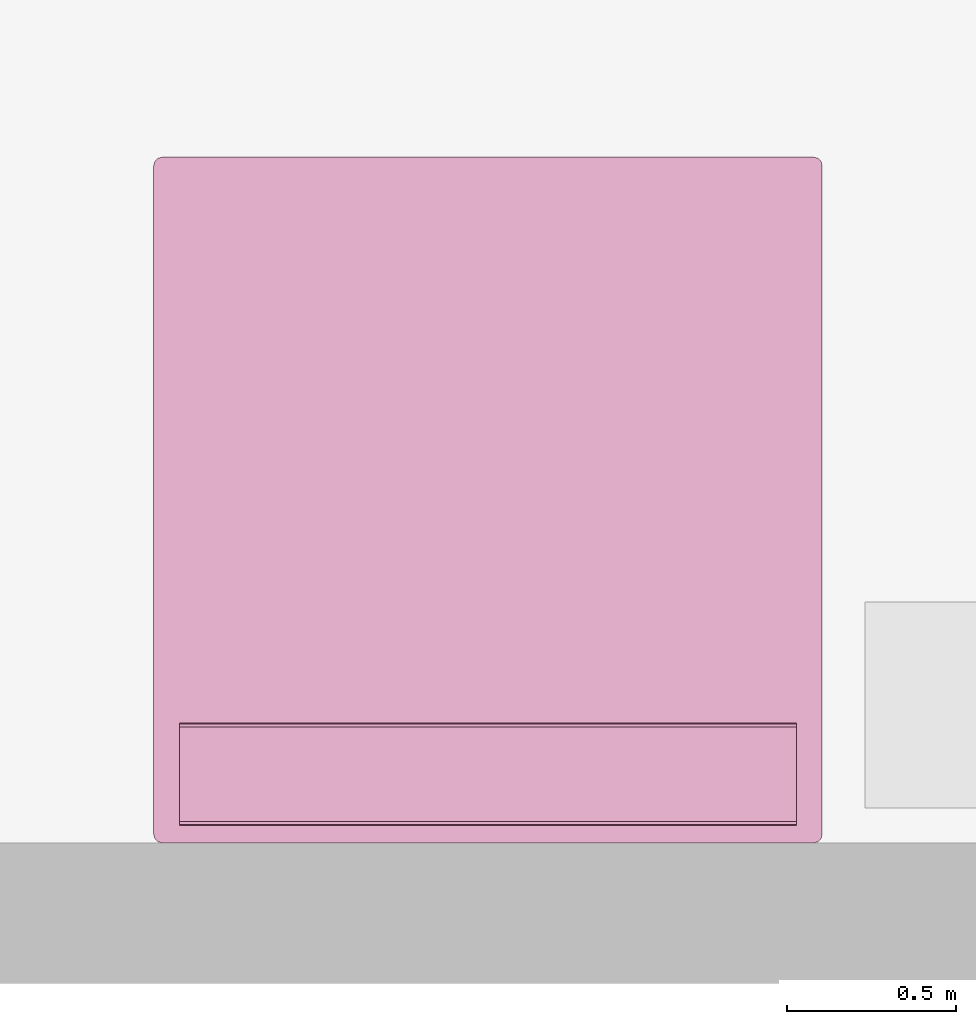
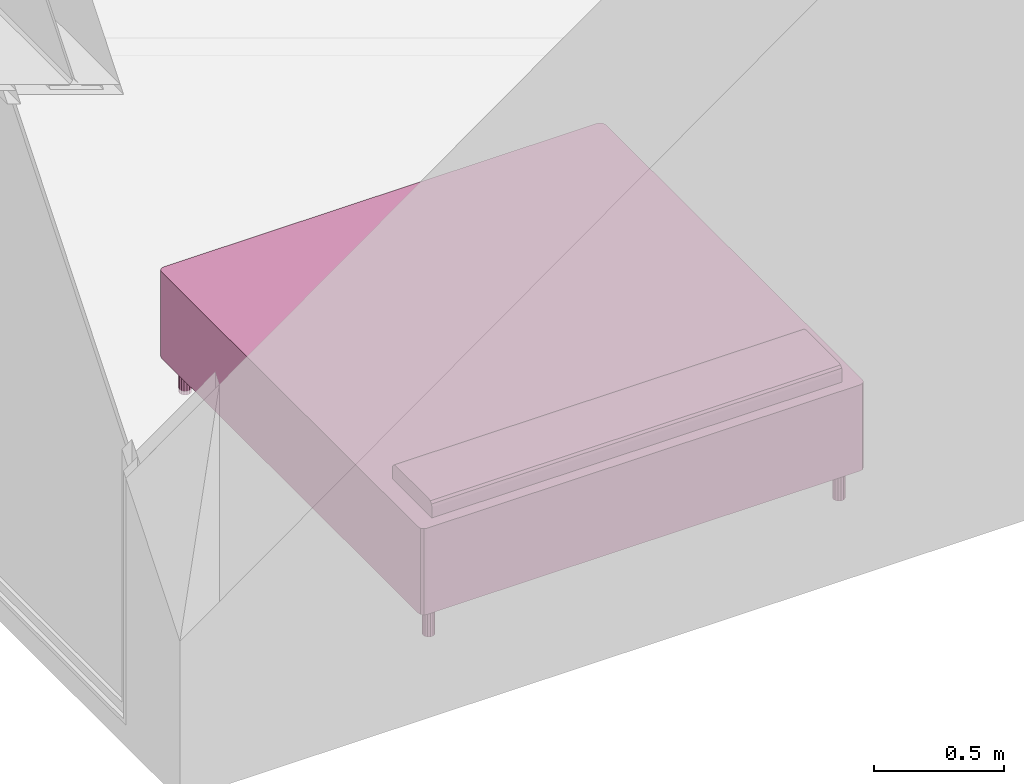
# One storey, part 8 of 16: 1 furnishing.
"""IFC4 building model written with IfcOpenShell, lengths in metres."""

import ifcopenshell
import ifcopenshell.guid

model = None  # the IFC model being written
_history = None  # IfcOwnerHistory: only IFC2X3 demands one
_inside = {}  # id of a spatial element -> (the spatial element, [elements in it])
_under = {}  # id of a project, library or spatial element -> (it, [spatial elements below it])
_declared = {}  # id of a project -> (the project, [libraries it declares])
_typed = {}  # id of a type object -> (the type object, [elements of that type])
_made_of = {}  # id of a material, layer set ... -> (it, [elements and type objects made of it])


def new_model(schema):
    """Start an empty IFC model of exactly this schema.

    Asked for "IFC4X3", IfcOpenShell would pick the latest addendum, in which some entities
    have other attributes; the version numbers below select the first issue.
    IFC2X3 requires an IfcOwnerHistory on every rooted entity: one is made here for all.
    """
    global model, _history
    if schema == "IFC4X3":
        model = ifcopenshell.file(schema_version=(4, 3, 0, 0))
    else:
        model = ifcopenshell.file(schema=schema)
    _inside.clear()
    _under.clear()
    _declared.clear()
    _typed.clear()
    _made_of.clear()
    _history = None
    if model.schema == "IFC2X3":
        org = make("IfcOrganization", Name="unknown")
        user = make(
            "IfcPersonAndOrganization",
            ThePerson=make("IfcPerson", FamilyName="unknown"),
            TheOrganization=org,
        )
        app = make(
            "IfcApplication",
            ApplicationDeveloper=org,
            Version="unknown",
            ApplicationFullName="unknown",
            ApplicationIdentifier="unknown",
        )
        _history = make(
            "IfcOwnerHistory",
            OwningUser=user,
            OwningApplication=app,
            ChangeAction="ADDED",
            CreationDate=0,
        )
    return model


def make(cls, **values):
    """One entity of the class cls with the attributes given. An attribute that is None is left unset."""
    return model.create_entity(
        cls, **{name: value for name, value in values.items() if value is not None}
    )


def entity(cls, *values):
    """Any entity or typed value of the class cls, its attributes in the order of the schema. None: left unset."""
    e = model.create_entity(cls)
    for i, value in enumerate(values):
        if value is not None:
            e[i] = value
    return e


def rooted(cls, **values):
    """An entity with a GlobalId (a new one), such as an element, a storey or a relation."""
    return make(cls, GlobalId=ifcopenshell.guid.new(), OwnerHistory=_history, **values)


def si_unit(unit_type, name, prefix=None):
    """IfcSIUnit, for example si_unit("LENGTHUNIT", "METRE", prefix="MILLI")."""
    return make("IfcSIUnit", UnitType=unit_type, Prefix=prefix, Name=name)


def converted_unit(unit_type, name, factor, base, dimensions=None, offset=None):
    """IfcConversionBasedUnit, such as the inch: factor (a typed value) times the base unit."""
    return make(
        "IfcConversionBasedUnit"
        if offset is None
        else "IfcConversionBasedUnitWithOffset",
        ConversionOffset=offset,
        Dimensions=None
        if dimensions is None
        else entity("IfcDimensionalExponents", *dimensions),
        UnitType=unit_type,
        Name=name,
        ConversionFactor=make(
            "IfcMeasureWithUnit", ValueComponent=factor, UnitComponent=base
        ),
    )


def assignment(units):
    """IfcUnitAssignment: the units of a project."""
    return None if units is None else make("IfcUnitAssignment", Units=units)


def point(xyz):
    """IfcCartesianPoint."""
    return None if xyz is None else make("IfcCartesianPoint", Coordinates=xyz)


def direction(xyz):
    """IfcDirection."""
    return None if xyz is None else make("IfcDirection", DirectionRatios=xyz)


def frame(location, z_axis=None, x_axis=None):
    """IfcAxis2Placement3D, a coordinate frame: its origin and axes. An axis left out is left unset."""
    return make(
        "IfcAxis2Placement3D",
        Location=point(location),
        Axis=direction(z_axis),
        RefDirection=direction(x_axis),
    )


def origin():
    """The frame at (0, 0, 0) with its axes left unset."""
    return frame((0.0, 0.0, 0.0))


def place(relative_to, where):
    """IfcLocalPlacement: puts the frame where relative to a parent placement (None: the world)."""
    return make(
        "IfcLocalPlacement", PlacementRelTo=relative_to, RelativePlacement=where
    )


def context(
    kind, dimensions, precision=None, world=None, true_north=None, identifier=None
):
    """IfcGeometricRepresentationContext, for example the 3D "Model" context."""
    return make(
        "IfcGeometricRepresentationContext",
        ContextIdentifier=identifier,
        ContextType=kind,
        CoordinateSpaceDimension=dimensions,
        Precision=precision,
        WorldCoordinateSystem=world,
        TrueNorth=true_north,
    )


def project(units=None, contexts=None):
    """IfcProject with its units and contexts."""
    return rooted(
        "IfcProject",
        Name="project",
        RepresentationContexts=contexts,
        UnitsInContext=assignment(units),
    )


def spatial(cls, under=None, at=None, **own):
    """A site, building, storey or space (cls), placed at a placement, below another one or the project."""
    s = rooted(cls, ObjectPlacement=at, **own)
    if under is not None:
        _under.setdefault(under.id(), (under, []))[1].append(s)
    return s


def faces_of(points, faces, orient=None, outer=None):
    """IfcFace entities. A face is a list of loops; a loop is a list of indices into points, from 0.

    orient and outer hold one flag for each loop. By default every Orientation is true, the
    first loop of a face is its IfcFaceOuterBound and the others are IfcFaceBound.
    """
    made = []
    for i, loops in enumerate(faces):
        bounds = []
        for j, loop in enumerate(loops):
            is_outer = j == 0 if outer is None else outer[i][j]
            bounds.append(
                make(
                    "IfcFaceOuterBound" if is_outer else "IfcFaceBound",
                    Bound=make("IfcPolyLoop", Polygon=[points[k] for k in loop]),
                    Orientation=True if orient is None else orient[i][j],
                )
            )
        made.append(make("IfcFace", Bounds=bounds))
    return made


def face_set(faces, orient=None, outer=None):
    """The faces of one IfcConnectedFaceSet. surface_model builds it on its shared points."""
    return ("IfcConnectedFaceSet", faces, orient, outer)


def surface_model(cls, points, shells):
    """IfcFaceBasedSurfaceModel or IfcShellBasedSurfaceModel (cls): surfaces that need not close."""
    shared = [point(p) for p in points]
    made = [make(c, CfsFaces=faces_of(shared, fs, o, b)) for c, fs, o, b in shells]
    if cls == "IfcFaceBasedSurfaceModel":
        return make(cls, FbsmFaces=made)
    return make(cls, SbsmBoundary=made)


def shape(context_of_items, identifier, shape_type, items):
    """IfcShapeRepresentation: the items that make up one representation, for example the "Body"."""
    return make(
        "IfcShapeRepresentation",
        ContextOfItems=context_of_items,
        RepresentationIdentifier=identifier,
        RepresentationType=shape_type,
        Items=items,
    )


def source(mapping_origin, context_of_items, identifier, shape_type, items):
    """IfcRepresentationMap: a shape defined once, which mapped items show again and again."""
    return make(
        "IfcRepresentationMap",
        MappingOrigin=mapping_origin,
        MappedRepresentation=shape(context_of_items, identifier, shape_type, items),
    )


def transform(
    local_origin,
    x_axis=None,
    y_axis=None,
    z_axis=None,
    scale=None,
    scale2=None,
    scale3=None,
    uniform=True,
):
    """IfcCartesianTransformationOperator3D, or its non-uniform kind. x_axis, y_axis, z_axis: its Axis1, 2, 3."""
    if uniform:
        return make(
            "IfcCartesianTransformationOperator3D",
            Axis1=direction(x_axis),
            Axis2=direction(y_axis),
            LocalOrigin=point(local_origin),
            Scale=scale,
            Axis3=direction(z_axis),
        )
    return make(
        "IfcCartesianTransformationOperator3DnonUniform",
        Axis1=direction(x_axis),
        Axis2=direction(y_axis),
        LocalOrigin=point(local_origin),
        Scale=scale,
        Axis3=direction(z_axis),
        Scale2=scale2,
        Scale3=scale3,
    )


def mapped(mapping_source, mapping_target):
    """IfcMappedItem: shows the shape of a source again, moved by a transform."""
    return make(
        "IfcMappedItem", MappingSource=mapping_source, MappingTarget=mapping_target
    )


def made_of(thing, what):
    """Note that an element or type object is made of a material, layer set ...; save() writes the relation."""
    if what is not None:
        _made_of.setdefault(what.id(), (what, []))[1].append(thing)
    return thing


def type_object(cls, material=None, **own):
    """A type object (cls), such as IfcWallType, which elements share."""
    return made_of(rooted(cls, **own), material)


def type_shapes(of_type, sources):
    """Give a type object the sources (RepresentationMaps) that its elements show as mapped items."""
    of_type.RepresentationMaps = sources


def element(
    cls,
    number,
    at=None,
    inside=None,
    cuts=None,
    type_object=None,
    material=None,
    context=None,
    identifier="Body",
    shape_type=None,
    held_by="IfcProductDefinitionShape",
    body=None,
    shapes=None,
    **own,
):
    """One element of the class cls, such as IfcWall. Its Tag is "e" and its number.

    at: its placement. inside: the storey or other place that contains it. cuts: it is an
    opening in that element (IfcRelVoidsElement). A single representation is given by context,
    identifier, shape_type and body (its items); several are given by shapes. held_by: the class
    of the entity that holds the representations. save() writes the other relations.
    """
    e = rooted(cls, Tag="e%d" % number, ObjectPlacement=at, **own)
    if body is not None:
        shapes = [shape(context, identifier, shape_type, body)]
    if shapes is not None:
        e.Representation = make(held_by, Representations=shapes)
    if inside is not None:
        _inside.setdefault(inside.id(), (inside, []))[1].append(e)
    if cuts is not None:
        rooted(
            "IfcRelVoidsElement", RelatingBuildingElement=cuts, RelatedOpeningElement=e
        )
    if type_object is not None:
        _typed.setdefault(type_object.id(), (type_object, []))[1].append(e)
    return made_of(e, material)


def aggregate(whole, parts):
    """IfcRelAggregates: a whole, such as a stair, and the parts it consists of."""
    return rooted("IfcRelAggregates", RelatingObject=whole, RelatedObjects=parts)


def save(model, path):
    """Write the relations noted so far, then the file.

    IfcRelAggregates (storeys below a building ...), IfcRelContainedInSpatialStructure (elements
    in a storey), IfcRelDefinesByType, IfcRelAssociatesMaterial and IfcRelDeclares: one each for
    every whole, place, type object, material and project.
    """
    for whole, parts in _under.values():
        aggregate(whole, parts)
    for where, things in _inside.values():
        rooted(
            "IfcRelContainedInSpatialStructure",
            RelatedElements=things,
            RelatingStructure=where,
        )
    for kind, things in _typed.values():
        rooted("IfcRelDefinesByType", RelatedObjects=things, RelatingType=kind)
    for what, things in _made_of.values():
        rooted("IfcRelAssociatesMaterial", RelatedObjects=things, RelatingMaterial=what)
    for by, libraries in _declared.values():
        rooted("IfcRelDeclares", RelatingContext=by, RelatedDefinitions=libraries)
    model.write(path)


model = new_model("IFC4")

# Units and contexts
model_context = context("Model", 3, precision=1e-09, world=origin())
plan_context = context("Plan", 3, precision=1e-09, world=origin())
ifc_project = project(units=[si_unit("LENGTHUNIT", "METRE"), si_unit("AREAUNIT", "SQUARE_METRE"), si_unit("VOLUMEUNIT", "CUBIC_METRE"), converted_unit("PLANEANGLEUNIT", "DEGREE", entity("IfcRatioMeasure", 0.01745329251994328), si_unit("PLANEANGLEUNIT", "RADIAN"), dimensions=[0, 0, 0, 0, 0, 0, 0]), si_unit("TIMEUNIT", "SECOND")], contexts=[model_context, plan_context])

# Site, building, storey, space
site_placement = place(None, origin())
site = spatial("IfcSite", under=ifc_project, at=site_placement, Name="Default", CompositionType="ELEMENT")
building_placement = place(site_placement, origin())
building = spatial("IfcBuilding", under=site, at=building_placement, CompositionType="ELEMENT")
storey_placement = place(building_placement, frame((0.0, 0.0, 3.100000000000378)))
storey = spatial("IfcBuildingStorey", under=building, at=storey_placement, Name="Level 2", CompositionType="ELEMENT", Elevation=3.100000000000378)
space_placement = place(storey_placement, origin())
space = spatial("IfcSpace", under=storey, at=space_placement, Name="B202", CompositionType="ELEMENT", PredefinedType="SPACE")

# Furnishing
furniture_type = type_object("IfcFurnitureType", Name="1981 x 2032mm - King", AssemblyPlace="NOTDEFINED")
shared_shape = source(origin(), model_context, "Body", "SurfaceModel", [
    surface_model("IfcFaceBasedSurfaceModel", [(0.001595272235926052, 0.02699527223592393, 0.3556), (0.001595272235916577, 2.008195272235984, 0.3556), (0.004998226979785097, 2.020895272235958, 0.3556), (0.01429527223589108, 2.030192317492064, 0.3556), (0.02699527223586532, 2.033595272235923, 0.3556), (1.957195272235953, 2.033595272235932, 0.3556), (1.969895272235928, 2.030192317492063, 0.3556), (1.979192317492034, 2.020895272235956, 0.3556), (1.982595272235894, 2.008195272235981, 0.3556), (1.982595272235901, 0.02699527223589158, 0.3556), (1.979192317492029, 0.01429527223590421, 0.3556), (1.969895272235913, 0.004998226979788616, 0.3556), (1.957195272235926, 0.001595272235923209, 0.3556), (0.02699527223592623, 0.00159527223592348, 0.3556), (0.01429527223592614, 0.004998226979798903, 0.3556), (0.00499822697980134, 0.01429527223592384, 0.3556), (0.001595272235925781, 0.02699527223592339, 0.1524), (0.001595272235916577, 2.008195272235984, 0.1524), (0.004998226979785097, 2.020895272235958, 0.1524), (0.01429527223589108, 2.030192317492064, 0.1524), (0.02699527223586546, 2.033595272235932, 0.1524), (1.957195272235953, 2.033595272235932, 0.1524), (1.969895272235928, 2.030192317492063, 0.1524), (1.979192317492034, 2.020895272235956, 0.1524), (1.982595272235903, 2.008195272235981, 0.1524), (1.982595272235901, 0.02699527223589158, 0.1524), (1.979192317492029, 0.01429527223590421, 0.1524), (1.969895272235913, 0.004998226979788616, 0.1524), (1.957195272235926, 0.001595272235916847, 0.1524), (0.02699527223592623, 0.00159527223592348, 0.1524), (0.01429527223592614, 0.004998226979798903, 0.1524), (0.00499822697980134, 0.01429527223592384, 0.1524), (0.003559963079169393, 0.01966291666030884, 0.1524000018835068), (0.003296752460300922, 0.02064526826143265, 0.3555999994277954), (0.009646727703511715, 0.009646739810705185, 0.3555999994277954), (0.009646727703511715, 0.009646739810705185, 0.1524000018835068), (0.02064525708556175, 0.003296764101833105, 0.1524000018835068), (0.01966290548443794, 0.003559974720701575, 0.3555999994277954), (1.964527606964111, 0.003559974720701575, 0.1524000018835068), (1.963545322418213, 0.003296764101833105, 0.3555999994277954), (1.974543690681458, 0.009646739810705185, 0.3555999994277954), (1.974543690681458, 0.009646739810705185, 0.1524000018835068), (1.980893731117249, 0.02064526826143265, 0.1524000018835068), (1.98063051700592, 0.01966291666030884, 0.3555999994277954), (1.980893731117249, 2.014545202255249, 0.3555999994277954), (1.980893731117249, 2.014545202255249, 0.1524000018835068), (1.974543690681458, 2.025543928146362, 0.3555999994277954), (1.974543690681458, 2.025543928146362, 0.1524000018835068), (1.963545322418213, 2.031893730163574, 0.1524000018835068), (1.964527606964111, 2.031630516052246, 0.3555999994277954), (0.01966290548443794, 2.031630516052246, 0.1524000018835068), (0.02064525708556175, 2.031893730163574, 0.3555999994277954), (0.009646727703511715, 2.025543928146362, 0.3555999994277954), (0.009646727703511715, 2.025543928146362, 0.1524000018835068), (0.003296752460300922, 2.014545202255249, 0.1524000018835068), (0.003559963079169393, 2.015527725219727, 0.3555999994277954), (0.07779527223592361, 1.677995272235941, 0.5588000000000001), (0.07779527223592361, 1.677995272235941, 0.6096), (0.07779527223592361, 1.681398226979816, 0.6223), (0.07779527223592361, 1.690695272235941, 0.6315970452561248), (0.07779527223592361, 1.703395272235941, 0.6349999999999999), (0.07779527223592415, 1.957395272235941, 0.6349999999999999), (0.07779527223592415, 1.970095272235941, 0.6315970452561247), (0.07779527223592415, 1.979392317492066, 0.6222999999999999), (0.07779527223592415, 1.982795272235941, 0.6095999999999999), (0.07779527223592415, 1.982795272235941, 0.5588000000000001), (1.906395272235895, 1.677995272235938, 0.5588000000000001), (1.906395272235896, 1.982795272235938, 0.5588000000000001), (1.906395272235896, 1.982795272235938, 0.6095999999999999), (1.906395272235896, 1.979392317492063, 0.6222999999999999), (1.906395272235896, 1.970095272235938, 0.6315970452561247), (1.906395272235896, 1.957395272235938, 0.6349999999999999), (1.906395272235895, 1.703395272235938, 0.6349999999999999), (1.906395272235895, 1.690695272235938, 0.6315970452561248), (1.906395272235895, 1.681398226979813, 0.6223), (1.906395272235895, 1.677995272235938, 0.6096), (0.07779525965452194, 1.679741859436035, 0.6161183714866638), (1.906395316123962, 1.679696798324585, 0.6159499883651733), (0.07779525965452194, 1.686046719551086, 0.6269484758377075), (1.906395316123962, 1.686046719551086, 0.6269484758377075), (1.906395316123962, 1.69704532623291, 0.6332985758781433), (0.07779525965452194, 1.696876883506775, 0.6332534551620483), (1.906395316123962, 1.963913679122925, 0.6332534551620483), (0.07779525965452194, 1.96374523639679, 0.6332985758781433), (0.07779525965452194, 1.974743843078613, 0.6269484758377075), (1.906395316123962, 1.974743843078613, 0.6269484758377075), (1.906395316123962, 1.981093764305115, 0.6159499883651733), (0.07779525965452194, 1.981048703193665, 0.6161183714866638), (0.1031952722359, 1.957395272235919, 0.1524), (0.1006798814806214, 1.946374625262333, 0.1524), (0.09363191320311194, 1.937536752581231, 0.1524), (0.08344730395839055, 1.932632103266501, 0.1524), (0.07214324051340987, 1.932632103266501, 0.1524), (0.06195863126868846, 1.937536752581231, 0.1524), (0.05491066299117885, 1.946374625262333, 0.1524), (0.05239527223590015, 1.957395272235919, 0.1524), (0.05491066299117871, 1.968415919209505, 0.1524), (0.06195863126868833, 1.977253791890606, 0.1524), (0.07214324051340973, 1.982158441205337, 0.1524), (0.08344730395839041, 1.982158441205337, 0.1524), (0.0936319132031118, 1.977253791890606, 0.1524), (0.1006798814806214, 1.968415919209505, 0.1524), (1.931795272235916, 1.957395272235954, 0.1524), (1.929279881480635, 1.946374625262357, 0.1524), (1.922231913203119, 1.937536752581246, 0.1524), (1.912047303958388, 1.932632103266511, 0.1524), (1.900743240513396, 1.932632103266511, 0.1524), (1.890558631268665, 1.937536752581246, 0.1524), (1.883510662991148, 1.946374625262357, 0.1524), (1.880995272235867, 1.957395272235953, 0.1524), (1.883510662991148, 1.96841591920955, 0.1524), (1.890558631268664, 1.97725379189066, 0.1524), (1.900743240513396, 1.982158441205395, 0.1524), (1.912047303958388, 1.982158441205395, 0.1524), (1.922231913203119, 1.97725379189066, 0.1524), (1.929279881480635, 1.96841591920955, 0.1524), (1.931795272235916, 0.0777952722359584, 0.1524), (1.929279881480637, 0.06677462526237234, 0.1524), (1.922231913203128, 0.0579367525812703, 0.1524), (1.912047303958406, 0.05303210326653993, 0.1524), (1.900743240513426, 0.05303210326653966, 0.1524), (1.890558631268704, 0.0579367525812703, 0.1524), (1.883510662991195, 0.06677462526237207, 0.1524), (1.880995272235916, 0.07779527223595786, 0.1524), (1.883510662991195, 0.08881591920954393, 0.1524), (1.890558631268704, 0.09765379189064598, 0.1524), (1.900743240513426, 0.1025584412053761, 0.1524), (1.912047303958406, 0.1025584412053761, 0.1524), (1.922231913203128, 0.09765379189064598, 0.1524), (1.929279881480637, 0.08881591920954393, 0.1524), (0.1031952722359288, 0.0777952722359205, 0.1524), (0.10067988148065, 0.06677462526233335, 0.1524), (0.09363191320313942, 0.05793675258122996, 0.1524), (0.08344730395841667, 0.05303210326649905, 0.1524), (0.07214324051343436, 0.05303210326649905, 0.1524), (0.06195863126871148, 0.05793675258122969, 0.1524), (0.05491066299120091, 0.06677462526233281, 0.1524), (0.05239527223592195, 0.0777952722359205, 0.1524), (0.05491066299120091, 0.08881591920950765, 0.1524), (0.06195863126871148, 0.09765379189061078, 0.1524), (0.07214324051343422, 0.102558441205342, 0.1524), (0.08344730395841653, 0.102558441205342, 0.1524), (0.09363191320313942, 0.09765379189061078, 0.1524), (0.1006798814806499, 0.08881591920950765, 0.1524), (0.1031952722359, 1.957395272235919, 0.0), (0.1006798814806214, 1.946374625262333, 0.0), (0.09363191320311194, 1.937536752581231, 0.0), (0.08344730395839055, 1.932632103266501, 0.0), (0.07214324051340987, 1.932632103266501, 0.0), (0.06195863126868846, 1.937536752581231, 0.0), (0.05491066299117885, 1.946374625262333, 0.0), (0.05239527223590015, 1.957395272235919, 0.0), (0.05491066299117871, 1.968415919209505, 0.0), (0.06195863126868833, 1.977253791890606, 0.0), (0.07214324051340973, 1.982158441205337, 0.0), (0.08344730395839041, 1.982158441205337, 0.0), (0.0936319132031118, 1.977253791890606, 0.0), (0.1006798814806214, 1.968415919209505, 0.0), (1.931795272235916, 1.957395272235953, 0.0), (1.929279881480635, 1.946374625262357, 0.0), (1.922231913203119, 1.937536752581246, 0.0), (1.912047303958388, 1.932632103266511, 0.0), (1.900743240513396, 1.932632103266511, 0.0), (1.890558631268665, 1.937536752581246, 0.0), (1.883510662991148, 1.946374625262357, 0.0), (1.880995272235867, 1.957395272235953, 0.0), (1.883510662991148, 1.96841591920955, 0.0), (1.890558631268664, 1.97725379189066, 0.0), (1.900743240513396, 1.982158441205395, 0.0), (1.912047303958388, 1.982158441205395, 0.0), (1.922231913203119, 1.97725379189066, 0.0), (1.929279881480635, 1.96841591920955, 0.0), (1.931795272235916, 0.07779527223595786, 0.0), (1.929279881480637, 0.06677462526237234, 0.0), (1.922231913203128, 0.0579367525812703, 0.0), (1.912047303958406, 0.05303210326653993, 0.0), (1.900743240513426, 0.05303210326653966, 0.0), (1.890558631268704, 0.0579367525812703, 0.0), (1.883510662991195, 0.06677462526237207, 0.0), (1.880995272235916, 0.07779527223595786, 0.0), (1.883510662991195, 0.08881591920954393, 0.0), (1.890558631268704, 0.09765379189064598, 0.0), (1.900743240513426, 0.1025584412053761, 0.0), (1.912047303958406, 0.1025584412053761, 0.0), (1.922231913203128, 0.09765379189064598, 0.0), (1.929279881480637, 0.08881591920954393, 0.0), (0.1031952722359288, 0.07779527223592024, 0.0), (0.10067988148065, 0.06677462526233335, 0.0), (0.09363191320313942, 0.05793675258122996, 0.0), (0.08344730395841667, 0.05303210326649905, 0.0), (0.07214324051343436, 0.05303210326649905, 0.0), (0.06195863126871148, 0.05793675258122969, 0.0), (0.05491066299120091, 0.06677462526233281, 0.0), (0.05239527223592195, 0.0777952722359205, 0.0), (0.05491066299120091, 0.08881591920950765, 0.0), (0.06195863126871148, 0.09765379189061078, 0.0), (0.07214324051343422, 0.102558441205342, 0.0), (0.08344730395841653, 0.102558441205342, 0.0), (0.09363191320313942, 0.09765379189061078, 0.0), (0.1006798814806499, 0.08881591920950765, 0.0), (0.05365297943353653, 1.951884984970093, 0.1524000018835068), (0.05843466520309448, 1.94195568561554, 0.0), (0.05843466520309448, 1.94195568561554, 0.1524000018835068), (0.1020657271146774, 1.952446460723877, 0.1524000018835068), (0.1019376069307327, 1.951884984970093, 0.0), (0.06705092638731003, 1.935084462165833, 0.0), (0.06705092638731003, 1.935084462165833, 0.1524000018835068), (0.05352479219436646, 1.952446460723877, 0.0), (0.07779525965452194, 1.932632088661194, 0.1524000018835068), (0.07779525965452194, 1.932632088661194, 0.0), (0.08853958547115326, 1.935084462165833, 0.0), (0.08853958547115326, 1.935084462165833, 0.1524000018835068), (0.09715592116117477, 1.94195568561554, 0.0), (0.09715592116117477, 1.94195568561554, 0.1524000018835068), (0.1020657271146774, 1.962344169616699, 0.0), (0.1019376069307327, 1.962905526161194, 0.1524000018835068), (0.09715592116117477, 1.972834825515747, 0.0), (0.09715592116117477, 1.972834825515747, 0.1524000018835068), (0.08853958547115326, 1.979706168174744, 0.1524000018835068), (0.08853958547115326, 1.979706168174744, 0.0), (0.07779525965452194, 1.982158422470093, 0.1524000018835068), (0.07779525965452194, 1.982158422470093, 0.0), (0.06705092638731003, 1.979706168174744, 0.1524000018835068), (0.06705092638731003, 1.979706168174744, 0.0), (0.05352479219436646, 1.962344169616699, 0.1524000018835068), (0.05843466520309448, 1.972834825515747, 0.1524000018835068), (0.05843466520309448, 1.972834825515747, 0.0), (0.05365297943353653, 1.962905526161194, 0.0), (1.882253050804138, 1.951884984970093, 0.1524000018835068), (1.88703465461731, 1.94195568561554, 0.1524000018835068), (1.88703465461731, 1.94195568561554, 0.0), (1.930537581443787, 1.951884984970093, 0.0), (1.930665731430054, 1.952446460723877, 0.1524000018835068), (1.895650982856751, 1.935084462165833, 0.0), (1.895650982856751, 1.935084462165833, 0.1524000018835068), (1.882124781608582, 1.952446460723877, 0.0), (1.906395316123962, 1.932632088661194, 0.1524000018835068), (1.906395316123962, 1.932632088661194, 0.0), (1.917139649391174, 1.935084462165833, 0.0), (1.917139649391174, 1.935084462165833, 0.1524000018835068), (1.925755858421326, 1.94195568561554, 0.0), (1.925755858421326, 1.94195568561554, 0.1524000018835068), (1.930665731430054, 1.962344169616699, 0.0), (1.930537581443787, 1.962905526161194, 0.1524000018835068), (1.925755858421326, 1.972834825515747, 0.1524000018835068), (1.925755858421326, 1.972834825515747, 0.0), (1.917139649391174, 1.979706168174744, 0.1524000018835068), (1.917139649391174, 1.979706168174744, 0.0), (1.906395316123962, 1.982158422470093, 0.1524000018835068), (1.906395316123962, 1.982158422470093, 0.0), (1.895650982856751, 1.979706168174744, 0.1524000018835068), (1.895650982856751, 1.979706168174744, 0.0), (1.882124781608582, 1.962344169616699, 0.1524000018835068), (1.88703465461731, 1.972834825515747, 0.0), (1.88703465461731, 1.972834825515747, 0.1524000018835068), (1.882253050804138, 1.962905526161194, 0.0), (1.882253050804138, 0.07228492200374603, 0.1524000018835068), (1.88703465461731, 0.0623556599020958, 0.0), (1.88703465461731, 0.0623556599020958, 0.1524000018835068), (1.930537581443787, 0.07228492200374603, 0.0), (1.930665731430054, 0.0728464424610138, 0.1524000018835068), (1.895650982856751, 0.05548442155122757, 0.1524000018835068), (1.895650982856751, 0.05548442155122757, 0.0), (1.882124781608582, 0.0728464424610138, 0.0), (1.906395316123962, 0.05303210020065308, 0.0), (1.906395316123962, 0.05303210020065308, 0.1524000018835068), (1.917139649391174, 0.05548442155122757, 0.1524000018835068), (1.917139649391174, 0.05548442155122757, 0.0), (1.925755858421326, 0.0623556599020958, 0.0), (1.925755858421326, 0.0623556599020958, 0.1524000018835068), (1.930665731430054, 0.08274409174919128, 0.0), (1.930537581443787, 0.08330561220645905, 0.1524000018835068), (1.925755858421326, 0.09323488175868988, 0.1524000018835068), (1.925755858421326, 0.09323488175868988, 0.0), (1.917139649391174, 0.1001061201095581, 0.0), (1.917139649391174, 0.1001061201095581, 0.1524000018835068), (1.906395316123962, 0.1025584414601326, 0.0), (1.906395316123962, 0.1025584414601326, 0.1524000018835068), (1.895650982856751, 0.1001061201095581, 0.0), (1.895650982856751, 0.1001061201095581, 0.1524000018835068), (1.882124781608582, 0.08274409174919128, 0.1524000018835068), (1.88703465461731, 0.09323488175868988, 0.0), (1.88703465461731, 0.09323488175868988, 0.1524000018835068), (1.882253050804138, 0.08330561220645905, 0.0), (0.05365297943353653, 0.07228492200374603, 0.1524000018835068), (0.05843466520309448, 0.0623556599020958, 0.1524000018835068), (0.05843466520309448, 0.0623556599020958, 0.0), (0.1020657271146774, 0.0728464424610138, 0.1524000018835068), (0.1019376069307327, 0.07228492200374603, 0.0), (0.06705092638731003, 0.05548442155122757, 0.1524000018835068), (0.06705092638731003, 0.05548442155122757, 0.0), (0.05352479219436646, 0.0728464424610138, 0.0), (0.07779525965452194, 0.05303210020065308, 0.0), (0.07779525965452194, 0.05303210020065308, 0.1524000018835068), (0.08853958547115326, 0.05548442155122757, 0.1524000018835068), (0.08853958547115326, 0.05548442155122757, 0.0), (0.09715592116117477, 0.0623556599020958, 0.1524000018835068), (0.09715592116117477, 0.0623556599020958, 0.0), (0.1020657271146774, 0.08274409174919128, 0.0), (0.1019376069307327, 0.08330561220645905, 0.1524000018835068), (0.09715592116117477, 0.09323488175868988, 0.0), (0.09715592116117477, 0.09323488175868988, 0.1524000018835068), (0.08853958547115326, 0.1001061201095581, 0.0), (0.08853958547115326, 0.1001061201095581, 0.1524000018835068), (0.07779525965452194, 0.1025584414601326, 0.0), (0.07779525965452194, 0.1025584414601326, 0.1524000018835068), (0.06705092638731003, 0.1001061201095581, 0.0), (0.06705092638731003, 0.1001061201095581, 0.1524000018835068), (0.05352479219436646, 0.08274409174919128, 0.1524000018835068), (0.05843466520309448, 0.09323488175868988, 0.1524000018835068), (0.05843466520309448, 0.09323488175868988, 0.0), (0.05365297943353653, 0.08330561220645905, 0.0), (0.02699527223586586, 2.033595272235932, 0.5588000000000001), (1.957195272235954, 2.033595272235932, 0.5588000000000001), (1.969895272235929, 2.030192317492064, 0.5588000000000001), (1.979192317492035, 2.020895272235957, 0.5588000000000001), (1.982595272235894, 2.008195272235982, 0.5588000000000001), (1.982595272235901, 0.02699527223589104, 0.5588000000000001), (1.979192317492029, 0.0142952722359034, 0.5588000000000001), (1.969895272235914, 0.004998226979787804, 0.5588000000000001), (1.957195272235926, 0.001595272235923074, 0.5588000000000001), (0.02699527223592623, 0.001595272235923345, 0.5588000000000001), (0.01429527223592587, 0.004998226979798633, 0.5588000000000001), (0.004998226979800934, 0.01429527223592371, 0.5588000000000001), (0.00159527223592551, 0.0269952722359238, 0.5588000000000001), (0.001595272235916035, 2.008195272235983, 0.5588000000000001), (0.004998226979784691, 2.020895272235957, 0.5588000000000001), (0.01429527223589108, 2.030192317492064, 0.5588000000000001), (0.02699527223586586, 2.033595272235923, 0.3556), (1.957195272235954, 2.033595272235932, 0.3556), (1.969895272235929, 2.030192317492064, 0.3556), (1.979192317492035, 2.020895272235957, 0.3556), (1.982595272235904, 2.008195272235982, 0.3556), (1.982595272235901, 0.02699527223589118, 0.3556), (1.979192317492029, 0.0142952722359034, 0.3556), (1.969895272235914, 0.004998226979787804, 0.3556), (1.957195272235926, 0.001595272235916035, 0.3556), (0.02699527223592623, 0.001595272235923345, 0.3556), (0.01429527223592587, 0.004998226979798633, 0.3556), (0.004998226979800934, 0.01429527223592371, 0.3556), (0.001595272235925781, 0.02699527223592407, 0.3556), (0.001595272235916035, 2.008195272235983, 0.3556), (0.004998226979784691, 2.020895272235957, 0.3556), (0.01429527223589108, 2.030192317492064, 0.3556), (0.01966290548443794, 2.031630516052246, 0.3555999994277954), (0.02064525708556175, 2.031893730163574, 0.5588000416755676), (0.009646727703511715, 2.025543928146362, 0.5588000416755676), (0.009646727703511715, 2.025543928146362, 0.3555999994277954), (0.003296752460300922, 2.014545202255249, 0.3555999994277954), (0.003559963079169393, 2.015527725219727, 0.5588000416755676), (0.003559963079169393, 0.01966291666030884, 0.3555999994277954), (0.003296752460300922, 0.02064526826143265, 0.5588000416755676), (0.009646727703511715, 0.009646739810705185, 0.5588000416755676), (0.009646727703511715, 0.009646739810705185, 0.3555999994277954), (0.02064525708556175, 0.003296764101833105, 0.3555999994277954), (0.01966290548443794, 0.003559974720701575, 0.5588000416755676), (1.964527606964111, 0.003559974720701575, 0.3555999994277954), (1.963545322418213, 0.003296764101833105, 0.5588000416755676), (1.974543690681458, 0.009646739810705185, 0.5588000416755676), (1.974543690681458, 0.009646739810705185, 0.3555999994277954), (1.980893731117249, 0.02064526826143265, 0.3555999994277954), (1.98063051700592, 0.01966291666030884, 0.5588000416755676), (1.98063051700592, 2.015527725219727, 0.3555999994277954), (1.980893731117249, 2.014545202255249, 0.5588000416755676), (1.974543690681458, 2.025543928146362, 0.5588000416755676), (1.974543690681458, 2.025543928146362, 0.3555999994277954), (1.963545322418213, 2.031893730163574, 0.3555999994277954), (1.964527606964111, 2.031630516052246, 0.5588000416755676)], [face_set([[[0, 1, 2, 3, 4, 5, 6, 7, 8, 9, 10, 11, 12, 13, 14, 15]], [[16, 17, 18, 19, 20, 21, 22, 23, 24, 25, 26, 27, 28, 29, 30, 31]], [[15, 32, 31]], [[32, 15, 33]], [[33, 0, 16]], [[34, 35, 30, 14]], [[16, 32, 33]], [[36, 29, 13]], [[37, 30, 36]], [[35, 34, 15, 31]], [[30, 37, 14]], [[13, 37, 36]], [[12, 28, 29, 13]], [[11, 38, 27]], [[38, 11, 39]], [[39, 12, 28]], [[40, 41, 26, 10]], [[28, 38, 39]], [[42, 25, 9]], [[43, 26, 42]], [[41, 40, 11, 27]], [[26, 43, 10]], [[9, 43, 42]], [[8, 9, 25, 24]], [[44, 8, 24, 45]], [[44, 45, 23, 7]], [[46, 47, 22, 6]], [[48, 21, 5]], [[5, 49, 48]], [[22, 49, 6]], [[47, 46, 7, 23]], [[49, 22, 48]], [[4, 5, 21, 20]], [[3, 50, 19]], [[50, 3, 51]], [[51, 4, 20]], [[52, 53, 18, 2]], [[20, 50, 51]], [[54, 17, 1]], [[55, 18, 54]], [[53, 52, 3, 19]], [[18, 55, 2]], [[1, 55, 54]], [[0, 1, 17, 16]]]), face_set([[[56, 57, 58, 59, 60, 61, 62, 63, 64, 65]], [[66, 67, 68, 69, 70, 71, 72, 73, 74, 75]], [[57, 56, 66, 75]], [[74, 76, 77]], [[77, 57, 75]], [[57, 77, 76]], [[78, 79, 73, 59]], [[80, 72, 60]], [[60, 81, 80]], [[73, 81, 59]], [[79, 78, 58, 74]], [[81, 73, 80]], [[74, 58, 76]], [[61, 71, 72, 60]], [[62, 82, 70]], [[82, 62, 83]], [[83, 61, 71]], [[84, 85, 69, 63]], [[71, 82, 83]], [[86, 68, 64]], [[87, 69, 86]], [[85, 84, 62, 70]], [[69, 87, 63]], [[64, 87, 86]], [[65, 67, 68, 64]], [[56, 65, 67, 66]]]), face_set([[[88, 89, 90, 91, 92, 93, 94, 95, 96, 97, 98, 99, 100, 101]], [[102, 103, 104, 105, 106, 107, 108, 109, 110, 111, 112, 113, 114, 115]], [[116, 117, 118, 119, 120, 121, 122, 123, 124, 125, 126, 127, 128, 129]], [[130, 131, 132, 133, 134, 135, 136, 137, 138, 139, 140, 141, 142, 143]], [[144, 145, 146, 147, 148, 149, 150, 151, 152, 153, 154, 155, 156, 157]], [[158, 159, 160, 161, 162, 163, 164, 165, 166, 167, 168, 169, 170, 171]], [[172, 173, 174, 175, 176, 177, 178, 179, 180, 181, 182, 183, 184, 185]], [[186, 187, 188, 189, 190, 191, 192, 193, 194, 195, 196, 197, 198, 199]], [[94, 200, 150]], [[201, 149, 202, 94]], [[203, 204, 89]], [[92, 148, 205, 206]], [[150, 200, 207]], [[200, 95, 207]], [[94, 150, 201]], [[206, 205, 149, 93]], [[149, 93, 202]], [[92, 208, 147, 209]], [[95, 151, 207]], [[90, 146, 210, 211]], [[145, 212, 90, 213]], [[147, 91, 211, 210]], [[213, 89, 145]], [[204, 203, 144]], [[212, 146, 90]], [[89, 204, 145]], [[208, 91, 147]], [[92, 209, 148]], [[203, 88, 144]], [[214, 144, 88]], [[215, 214, 88]], [[100, 156, 216, 217]], [[157, 101, 217, 216]], [[218, 219, 155, 99]], [[214, 215, 157]], [[157, 215, 101]], [[100, 156, 219, 218]], [[220, 221, 154, 98]], [[222, 223, 153, 97]], [[151, 95, 224]], [[225, 226, 152, 96]], [[226, 225, 97, 153]], [[151, 224, 227]], [[98, 154, 223, 222]], [[152, 227, 96]], [[221, 220, 99, 155]], [[96, 227, 224]], [[164, 228, 108]], [[108, 229, 163, 230]], [[103, 231, 232]], [[106, 162, 233, 234]], [[235, 228, 164]], [[235, 109, 228]], [[230, 164, 108]], [[234, 233, 163, 107]], [[229, 107, 163]], [[106, 236, 161, 237]], [[235, 165, 109]], [[104, 160, 238, 239]], [[240, 241, 104, 160]], [[241, 240, 159, 103]], [[161, 105, 239, 238]], [[158, 232, 231]], [[159, 231, 103]], [[236, 105, 161]], [[106, 237, 162]], [[158, 102, 232]], [[102, 158, 242]], [[102, 242, 243]], [[244, 245, 170, 114]], [[245, 244, 115, 171]], [[246, 247, 169, 113]], [[171, 243, 242]], [[115, 243, 171]], [[114, 170, 247, 246]], [[248, 249, 168, 112]], [[250, 251, 167, 111]], [[252, 109, 165]], [[110, 166, 253, 254]], [[167, 111, 254, 253]], [[255, 252, 165]], [[112, 168, 251, 250]], [[110, 255, 166]], [[249, 248, 113, 169]], [[252, 255, 110]], [[178, 256, 122]], [[121, 177, 257, 258]], [[117, 259, 260]], [[261, 262, 176, 120]], [[263, 256, 178]], [[263, 123, 256]], [[178, 122, 258, 257]], [[121, 177, 262, 261]], [[264, 175, 265, 120]], [[263, 179, 123]], [[266, 267, 174, 118]], [[268, 269, 118, 174]], [[269, 268, 173, 117]], [[267, 266, 119, 175]], [[172, 260, 259]], [[173, 259, 117]], [[175, 119, 265]], [[176, 264, 120]], [[172, 116, 260]], [[116, 172, 270]], [[116, 270, 271]], [[272, 273, 184, 128]], [[273, 272, 129, 185]], [[127, 183, 274, 275]], [[185, 271, 270]], [[129, 271, 185]], [[275, 274, 184, 128]], [[126, 182, 276, 277]], [[125, 181, 278, 279]], [[280, 123, 179]], [[124, 180, 281, 282]], [[181, 125, 282, 281]], [[283, 280, 179]], [[279, 278, 182, 126]], [[124, 283, 180]], [[183, 127, 277, 276]], [[280, 283, 124]], [[136, 284, 192]], [[285, 286, 191, 135]], [[287, 288, 131]], [[289, 290, 190, 134]], [[192, 284, 291]], [[284, 137, 291]], [[286, 285, 136, 192]], [[135, 191, 290, 289]], [[292, 189, 293, 134]], [[137, 193, 291]], [[294, 295, 188, 132]], [[188, 132, 296, 297]], [[131, 187, 297, 296]], [[295, 294, 133, 189]], [[288, 287, 186]], [[131, 288, 187]], [[189, 133, 293]], [[190, 292, 134]], [[287, 130, 186]], [[298, 186, 130]], [[299, 298, 130]], [[142, 198, 300, 301]], [[199, 143, 301, 300]], [[141, 197, 302, 303]], [[298, 299, 199]], [[199, 299, 143]], [[303, 302, 198, 142]], [[140, 196, 304, 305]], [[139, 195, 306, 307]], [[193, 137, 308]], [[309, 310, 194, 138]], [[310, 309, 139, 195]], [[193, 308, 311]], [[307, 306, 196, 140]], [[194, 311, 138]], [[197, 141, 305, 304]], [[138, 311, 308]]]), face_set([[[312, 313, 314, 315, 316, 317, 318, 319, 320, 321, 322, 323, 324, 325, 326, 327]], [[328, 329, 330, 331, 332, 333, 334, 335, 336, 337, 338, 339, 340, 341, 342, 343]], [[327, 344, 343]], [[344, 327, 345]], [[345, 312, 328]], [[346, 347, 342, 326]], [[328, 344, 345]], [[348, 341, 325]], [[349, 342, 348]], [[347, 346, 327, 343]], [[342, 349, 326]], [[325, 349, 348]], [[324, 325, 341, 340]], [[323, 350, 339]], [[350, 323, 351]], [[351, 324, 340]], [[352, 353, 338, 322]], [[340, 350, 351]], [[354, 337, 321]], [[355, 338, 354]], [[353, 352, 323, 339]], [[338, 355, 322]], [[321, 355, 354]], [[320, 336, 337, 321]], [[319, 356, 335]], [[356, 319, 357]], [[357, 320, 336]], [[358, 359, 334, 318]], [[336, 356, 357]], [[360, 333, 317]], [[361, 334, 360]], [[359, 358, 319, 335]], [[334, 361, 318]], [[317, 361, 360]], [[316, 317, 333, 332]], [[315, 362, 331]], [[362, 315, 363]], [[363, 316, 332]], [[364, 365, 330, 314]], [[332, 362, 363]], [[366, 329, 313]], [[367, 330, 366]], [[365, 364, 315, 331]], [[330, 367, 314]], [[313, 367, 366]], [[312, 313, 329, 328]]])]),
])
type_shapes(furniture_type, [shared_shape])
furnishing_placement = place(space_placement, frame((3.299595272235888, -15.34940472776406, 0.0), z_axis=(0.0, 0.0, 1.0), x_axis=(-1.0, 0.0, 0.0)))
element("IfcFurnishingElement", 1, at=furnishing_placement, inside=space, type_object=furniture_type, Name="M_Bed-Standard:1981 x 2032mm - King:1981 x 2032mm - King", ObjectType="1981 x 2032mm - King", context=model_context, shape_type="MappedRepresentation", body=[
    mapped(shared_shape, transform((0.0, 0.0, 0.0), scale=1.0)),
])

save(model, "model.ifc")
